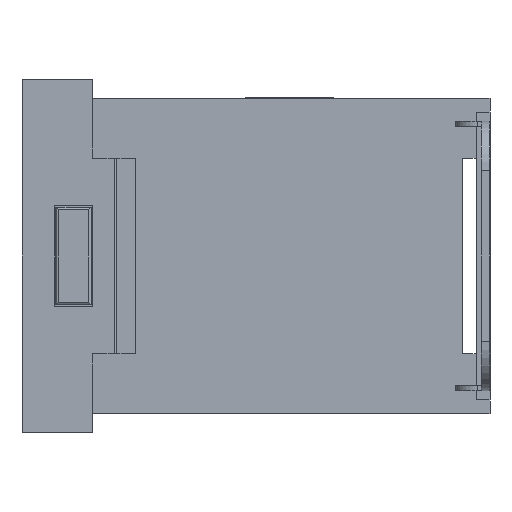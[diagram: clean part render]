
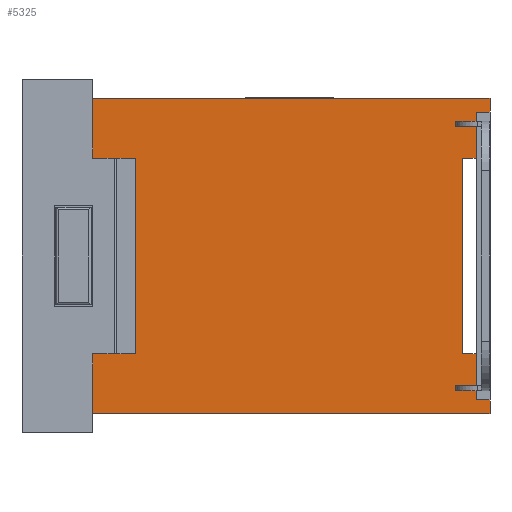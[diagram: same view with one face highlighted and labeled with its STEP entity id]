
A CAD part, left-side view. The second image highlights one B-rep face of the part: STEP entity #5325.
In plain terms, the highlighted planar face has unit normal (-1, 0, 0).
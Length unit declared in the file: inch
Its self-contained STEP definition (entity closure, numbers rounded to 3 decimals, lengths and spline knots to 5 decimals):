
#335=FACE_OUTER_BOUND('',#626,.T.);
#626=EDGE_LOOP('',(#4295,#4296,#4297,#4298,#4299,#4300,#4301,#4302,#4303,
#4304,#4305,#4306,#4307,#4308,#4309,#4310,#4311,#4312,#4313,#4314,#4315,
#4316,#4317,#4318));
#1119=LINE('',#8672,#1721);
#1136=LINE('',#8725,#1738);
#1148=LINE('',#8753,#1750);
#1169=LINE('',#8795,#1771);
#1171=LINE('',#8800,#1773);
#1179=LINE('',#8815,#1781);
#1188=LINE('',#8836,#1790);
#1199=LINE('',#8863,#1801);
#1202=LINE('',#8871,#1804);
#1203=LINE('',#8873,#1805);
#1204=LINE('',#8874,#1806);
#1205=LINE('',#8876,#1807);
#1206=LINE('',#8878,#1808);
#1207=LINE('',#8880,#1809);
#1208=LINE('',#8882,#1810);
#1209=LINE('',#8884,#1811);
#1210=LINE('',#8886,#1812);
#1211=LINE('',#8888,#1813);
#1212=LINE('',#8890,#1814);
#1213=LINE('',#8891,#1815);
#1214=LINE('',#8893,#1816);
#1215=LINE('',#8895,#1817);
#1216=LINE('',#8897,#1818);
#1217=LINE('',#8898,#1819);
#1721=VECTOR('',#6094,0.3937);
#1738=VECTOR('',#6147,0.3937);
#1750=VECTOR('',#6169,0.3937);
#1771=VECTOR('',#6196,0.3937);
#1773=VECTOR('',#6200,0.3937);
#1781=VECTOR('',#6212,0.3937);
#1790=VECTOR('',#6229,0.3937);
#1801=VECTOR('',#6258,0.3937);
#1804=VECTOR('',#6269,0.3937);
#1805=VECTOR('',#6270,0.3937);
#1806=VECTOR('',#6271,0.3937);
#1807=VECTOR('',#6272,0.3937);
#1808=VECTOR('',#6273,0.3937);
#1809=VECTOR('',#6274,0.3937);
#1810=VECTOR('',#6275,0.3937);
#1811=VECTOR('',#6276,0.3937);
#1812=VECTOR('',#6277,0.3937);
#1813=VECTOR('',#6278,0.3937);
#1814=VECTOR('',#6279,0.3937);
#1815=VECTOR('',#6280,0.3937);
#1816=VECTOR('',#6281,0.3937);
#1817=VECTOR('',#6282,0.3937);
#1818=VECTOR('',#6283,0.3937);
#1819=VECTOR('',#6284,0.3937);
#2330=VERTEX_POINT('',#8665);
#2333=VERTEX_POINT('',#8670);
#2350=VERTEX_POINT('',#8723);
#2351=VERTEX_POINT('',#8724);
#2362=VERTEX_POINT('',#8752);
#2380=VERTEX_POINT('',#8794);
#2381=VERTEX_POINT('',#8798);
#2382=VERTEX_POINT('',#8799);
#2387=VERTEX_POINT('',#8813);
#2395=VERTEX_POINT('',#8835);
#2402=VERTEX_POINT('',#8861);
#2403=VERTEX_POINT('',#8870);
#2404=VERTEX_POINT('',#8872);
#2405=VERTEX_POINT('',#8875);
#2406=VERTEX_POINT('',#8877);
#2407=VERTEX_POINT('',#8879);
#2408=VERTEX_POINT('',#8881);
#2409=VERTEX_POINT('',#8883);
#2410=VERTEX_POINT('',#8885);
#2411=VERTEX_POINT('',#8887);
#2412=VERTEX_POINT('',#8889);
#2413=VERTEX_POINT('',#8892);
#2414=VERTEX_POINT('',#8894);
#2415=VERTEX_POINT('',#8896);
#2973=EDGE_CURVE('',#2330,#2333,#1119,.T.);
#2998=EDGE_CURVE('',#2350,#2351,#1136,.T.);
#3012=EDGE_CURVE('',#2362,#2350,#1148,.T.);
#3033=EDGE_CURVE('',#2380,#2362,#1169,.T.);
#3035=EDGE_CURVE('',#2381,#2382,#1171,.T.);
#3043=EDGE_CURVE('',#2382,#2387,#1179,.T.);
#3054=EDGE_CURVE('',#2395,#2381,#1188,.T.);
#3069=EDGE_CURVE('',#2351,#2402,#1199,.T.);
#3072=EDGE_CURVE('',#2402,#2403,#1202,.T.);
#3073=EDGE_CURVE('',#2403,#2404,#1203,.T.);
#3074=EDGE_CURVE('',#2404,#2330,#1204,.T.);
#3075=EDGE_CURVE('',#2405,#2333,#1205,.T.);
#3076=EDGE_CURVE('',#2405,#2406,#1206,.T.);
#3077=EDGE_CURVE('',#2406,#2407,#1207,.T.);
#3078=EDGE_CURVE('',#2407,#2408,#1208,.T.);
#3079=EDGE_CURVE('',#2409,#2408,#1209,.T.);
#3080=EDGE_CURVE('',#2410,#2409,#1210,.T.);
#3081=EDGE_CURVE('',#2410,#2411,#1211,.T.);
#3082=EDGE_CURVE('',#2411,#2412,#1212,.T.);
#3083=EDGE_CURVE('',#2412,#2395,#1213,.T.);
#3084=EDGE_CURVE('',#2387,#2413,#1214,.T.);
#3085=EDGE_CURVE('',#2413,#2414,#1215,.T.);
#3086=EDGE_CURVE('',#2414,#2415,#1216,.T.);
#3087=EDGE_CURVE('',#2415,#2380,#1217,.T.);
#4295=ORIENTED_EDGE('',*,*,#3069,.T.);
#4296=ORIENTED_EDGE('',*,*,#3072,.T.);
#4297=ORIENTED_EDGE('',*,*,#3073,.T.);
#4298=ORIENTED_EDGE('',*,*,#3074,.T.);
#4299=ORIENTED_EDGE('',*,*,#2973,.T.);
#4300=ORIENTED_EDGE('',*,*,#3075,.F.);
#4301=ORIENTED_EDGE('',*,*,#3076,.T.);
#4302=ORIENTED_EDGE('',*,*,#3077,.T.);
#4303=ORIENTED_EDGE('',*,*,#3078,.T.);
#4304=ORIENTED_EDGE('',*,*,#3079,.F.);
#4305=ORIENTED_EDGE('',*,*,#3080,.F.);
#4306=ORIENTED_EDGE('',*,*,#3081,.T.);
#4307=ORIENTED_EDGE('',*,*,#3082,.T.);
#4308=ORIENTED_EDGE('',*,*,#3083,.T.);
#4309=ORIENTED_EDGE('',*,*,#3054,.T.);
#4310=ORIENTED_EDGE('',*,*,#3035,.T.);
#4311=ORIENTED_EDGE('',*,*,#3043,.T.);
#4312=ORIENTED_EDGE('',*,*,#3084,.T.);
#4313=ORIENTED_EDGE('',*,*,#3085,.T.);
#4314=ORIENTED_EDGE('',*,*,#3086,.T.);
#4315=ORIENTED_EDGE('',*,*,#3087,.T.);
#4316=ORIENTED_EDGE('',*,*,#3033,.T.);
#4317=ORIENTED_EDGE('',*,*,#3012,.T.);
#4318=ORIENTED_EDGE('',*,*,#2998,.T.);
#5027=PLANE('',#5574);
#5325=ADVANCED_FACE('',(#335),#5027,.T.);
#5574=AXIS2_PLACEMENT_3D('',#8869,#6267,#6268);
#6094=DIRECTION('',(0.,1.,0.));
#6147=DIRECTION('',(0.,0.,1.));
#6169=DIRECTION('',(0.,1.,0.));
#6196=DIRECTION('',(0.,0.,1.));
#6200=DIRECTION('',(0.,0.,1.));
#6212=DIRECTION('',(0.,-1.,0.));
#6229=DIRECTION('',(0.,1.,0.));
#6258=DIRECTION('',(0.,-1.,0.));
#6267=DIRECTION('center_axis',(-1.,0.,0.));
#6268=DIRECTION('ref_axis',(0.,0.,1.));
#6269=DIRECTION('',(0.,0.,1.));
#6270=DIRECTION('',(0.,-1.,0.));
#6271=DIRECTION('',(0.,0.,1.));
#6272=DIRECTION('',(0.,0.,1.));
#6273=DIRECTION('',(0.,-1.,0.));
#6274=DIRECTION('',(0.,0.,-1.));
#6275=DIRECTION('',(0.,1.,0.));
#6276=DIRECTION('',(0.,0.,1.));
#6277=DIRECTION('',(0.,1.,0.));
#6278=DIRECTION('',(0.,0.,1.));
#6279=DIRECTION('',(0.,1.,0.));
#6280=DIRECTION('',(0.,0.,1.));
#6281=DIRECTION('',(0.,0.,1.));
#6282=DIRECTION('',(0.,1.,0.));
#6283=DIRECTION('',(0.,0.,1.));
#6284=DIRECTION('',(0.,-1.,0.));
#8665=CARTESIAN_POINT('',(-0.38976,0.,0.28543));
#8670=CARTESIAN_POINT('',(-0.38976,0.7185,0.28543));
#8672=CARTESIAN_POINT('',(-0.38976,0.,0.28543));
#8723=CARTESIAN_POINT('',(-0.38976,0.06299,0.23465));
#8724=CARTESIAN_POINT('',(-0.38976,0.06299,0.24409));
#8725=CARTESIAN_POINT('',(-0.38976,0.06299,-0.02303));
#8752=CARTESIAN_POINT('',(-0.38976,0.025,0.23465));
#8753=CARTESIAN_POINT('',(-0.38976,0.00787,0.23465));
#8794=CARTESIAN_POINT('',(-0.38976,0.025,0.17717));
#8795=CARTESIAN_POINT('',(-0.38976,0.025,-0.0125));
#8798=CARTESIAN_POINT('',(-0.38976,0.06299,-0.24409));
#8799=CARTESIAN_POINT('',(-0.38976,0.06299,-0.23465));
#8800=CARTESIAN_POINT('',(-0.38976,0.06299,-0.2624));
#8813=CARTESIAN_POINT('',(-0.38976,0.025,-0.23465));
#8815=CARTESIAN_POINT('',(-0.38976,0.00787,-0.23465));
#8835=CARTESIAN_POINT('',(-0.38976,0.025,-0.24409));
#8836=CARTESIAN_POINT('',(-0.38976,0.,-0.24409));
#8861=CARTESIAN_POINT('',(-0.38976,0.025,0.24409));
#8863=CARTESIAN_POINT('',(-0.38976,0.00787,0.24409));
#8869=CARTESIAN_POINT('Origin',(-0.38976,0.,-0.28543));
#8870=CARTESIAN_POINT('',(-0.38976,0.025,0.26043));
#8871=CARTESIAN_POINT('',(-0.38976,0.025,-0.0125));
#8872=CARTESIAN_POINT('',(-0.38976,0.,0.26043));
#8873=CARTESIAN_POINT('',(-0.38976,0.,0.26043));
#8874=CARTESIAN_POINT('',(-0.38976,0.,-0.28543));
#8875=CARTESIAN_POINT('',(-0.38976,0.7185,0.17717));
#8876=CARTESIAN_POINT('',(-0.38976,0.7185,-0.28543));
#8877=CARTESIAN_POINT('',(-0.38976,0.64118,0.17717));
#8878=CARTESIAN_POINT('',(-0.38976,0.34231,0.17717));
#8879=CARTESIAN_POINT('',(-0.38976,0.64118,-0.17717));
#8880=CARTESIAN_POINT('',(-0.38976,0.64118,-0.14272));
#8881=CARTESIAN_POINT('',(-0.38976,0.7185,-0.17717));
#8882=CARTESIAN_POINT('',(-0.38976,0.34231,-0.17717));
#8883=CARTESIAN_POINT('',(-0.38976,0.7185,-0.28543));
#8884=CARTESIAN_POINT('',(-0.38976,0.7185,-0.28543));
#8885=CARTESIAN_POINT('',(-0.38976,0.,-0.28543));
#8886=CARTESIAN_POINT('',(-0.38976,0.,-0.28543));
#8887=CARTESIAN_POINT('',(-0.38976,0.,-0.26043));
#8888=CARTESIAN_POINT('',(-0.38976,0.,-0.28543));
#8889=CARTESIAN_POINT('',(-0.38976,0.025,-0.26043));
#8890=CARTESIAN_POINT('',(-0.38976,0.0125,-0.26043));
#8891=CARTESIAN_POINT('',(-0.38976,0.025,-0.0125));
#8892=CARTESIAN_POINT('',(-0.38976,0.025,-0.17717));
#8893=CARTESIAN_POINT('',(-0.38976,0.025,-0.0125));
#8894=CARTESIAN_POINT('',(-0.38976,0.05,-0.17717));
#8895=CARTESIAN_POINT('',(-0.38976,0.025,-0.17717));
#8896=CARTESIAN_POINT('',(-0.38976,0.05,0.17717));
#8897=CARTESIAN_POINT('',(-0.38976,0.05,-0.05413));
#8898=CARTESIAN_POINT('',(-0.38976,0.0125,0.17717));
